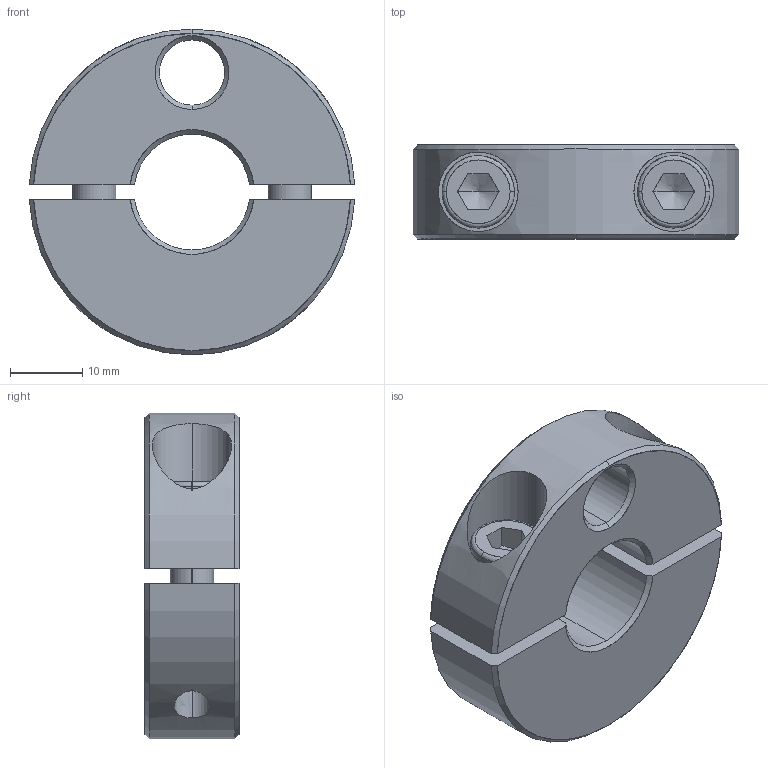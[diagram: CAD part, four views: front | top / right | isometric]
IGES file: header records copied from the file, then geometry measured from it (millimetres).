
Start section: SolidWorks IGES FILE using analytic representation for surfaces
Global section: file name: C:\WIX2\Positioning\3865\3865W116.igs; native system: SolidWorks 2003 by SolidWorks Corporation; preprocessor: Version 5.3; author: Joan; date: 030722.172955; units: millimetre
Bounding box: 44.96 x 13 x 45 mm (x, y, z)
Surface area: 8655.4 mm2 (no closed solid volume)
Topology: 0 solids, 0 shells, 96 faces, 1606 edges, 1602 vertices
Faces by surface type: revolution 62, bspline 34
